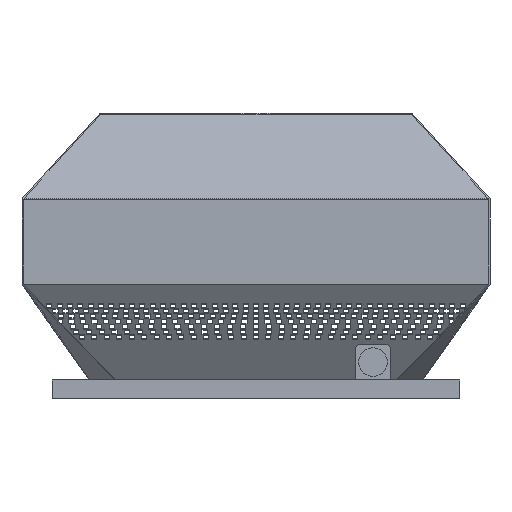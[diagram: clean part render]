
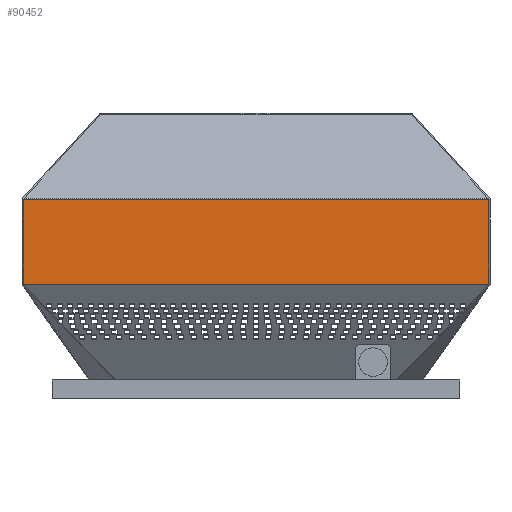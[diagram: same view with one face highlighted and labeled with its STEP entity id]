
A CAD part, left-side view. The second image highlights one B-rep face of the part: STEP entity #90452.
In plain terms, the highlighted planar face has unit normal (-1, 0, 0).
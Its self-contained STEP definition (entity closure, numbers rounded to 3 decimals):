
#7848=PLANE('',#94525);
#11869=FACE_OUTER_BOUND('',#17841,.T.);
#17841=EDGE_LOOP('',(#86394,#86395,#86396,#86397));
#18214=LINE('',#115459,#30294);
#29918=LINE('',#138883,#41998);
#29919=LINE('',#138886,#41999);
#29920=LINE('',#138887,#42000);
#30294=VECTOR('',#95138,10.);
#41998=VECTOR('',#114696,10.);
#41999=VECTOR('',#114699,10.);
#42000=VECTOR('',#114700,10.);
#42289=VERTEX_POINT('',#115456);
#42290=VERTEX_POINT('',#115458);
#50082=VERTEX_POINT('',#138879);
#50084=VERTEX_POINT('',#138885);
#50454=EDGE_CURVE('',#42290,#42289,#18214,.T.);
#62188=EDGE_CURVE('',#50082,#42290,#29918,.T.);
#62189=EDGE_CURVE('',#50084,#50082,#29919,.T.);
#62190=EDGE_CURVE('',#50084,#42289,#29920,.T.);
#86394=ORIENTED_EDGE('',*,*,#62189,.T.);
#86395=ORIENTED_EDGE('',*,*,#62188,.T.);
#86396=ORIENTED_EDGE('',*,*,#50454,.T.);
#86397=ORIENTED_EDGE('',*,*,#62190,.F.);
#90452=ADVANCED_FACE('',(#11869),#7848,.F.);
#94525=AXIS2_PLACEMENT_3D('',#138884,#114697,#114698);
#95138=DIRECTION('',(0.,-1.,0.));
#114696=DIRECTION('',(0.,0.,-1.));
#114697=DIRECTION('center_axis',(1.,0.,0.));
#114698=DIRECTION('ref_axis',(0.,0.,-1.));
#114699=DIRECTION('',(0.,1.,0.));
#114700=DIRECTION('',(0.,0.,-1.));
#115456=CARTESIAN_POINT('',(-370.,-370.,180.8));
#115458=CARTESIAN_POINT('',(-370.,370.,180.8));
#115459=CARTESIAN_POINT('',(-370.,370.,180.8));
#138879=CARTESIAN_POINT('',(-370.,370.,316.4));
#138883=CARTESIAN_POINT('',(-370.,370.,316.4));
#138884=CARTESIAN_POINT('Origin',(-370.,370.,316.4));
#138885=CARTESIAN_POINT('',(-370.,-370.,316.4));
#138886=CARTESIAN_POINT('',(-370.,370.,316.4));
#138887=CARTESIAN_POINT('',(-370.,-370.,316.4));
